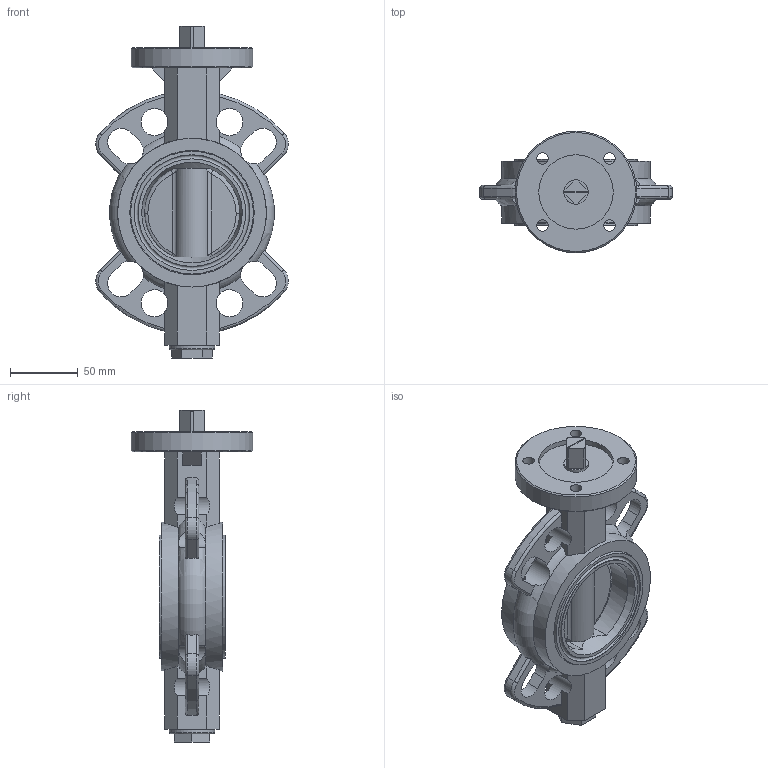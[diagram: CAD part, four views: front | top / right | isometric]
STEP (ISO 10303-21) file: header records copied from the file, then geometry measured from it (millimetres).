
FILE_DESCRIPTION( ( 'STEP AP214' ), '1' );
FILE_NAME( ' ', ' ', ( ' ' ), ( ' ' ), 'PSStep 13.0', 'VISI 18.0', ' ' );
FILE_SCHEMA( ( 'AUTOMOTIVE_DESIGN { 1 0 10303 214 1 1 1 1 }' ) );
Length unit declared in the file: millimetre
Products named in the file (1): 1
Bounding box: 142.44 x 90 x 245.5 mm (x, y, z)
Volume: 597127.9 mm3; surface area: 107972.5 mm2
Topology: 1 solids, 3 shells, 205 faces, 576 edges, 368 vertices
Faces by surface type: plane 97, cylinder 57, torus 31, bspline 16, cone 4
Full cylindrical faces by diameter (mm): 8.5 x4, 18 x1, 20 x4, 33.5 x1, 55 x1, 79.5 x2, 85.5 x2, 90 x1, 90.8 x2, 92 x3, 110 x2
Entity records: 11641 total; most frequent: CARTESIAN_POINT 4918, ORIENTED_EDGE 1068, DIRECTION 1030, EDGE_CURVE 534, AXIS2_PLACEMENT_3D 406, VERTEX_POINT 358, EDGE_LOOP 258, FACE_OUTER_BOUND 233
